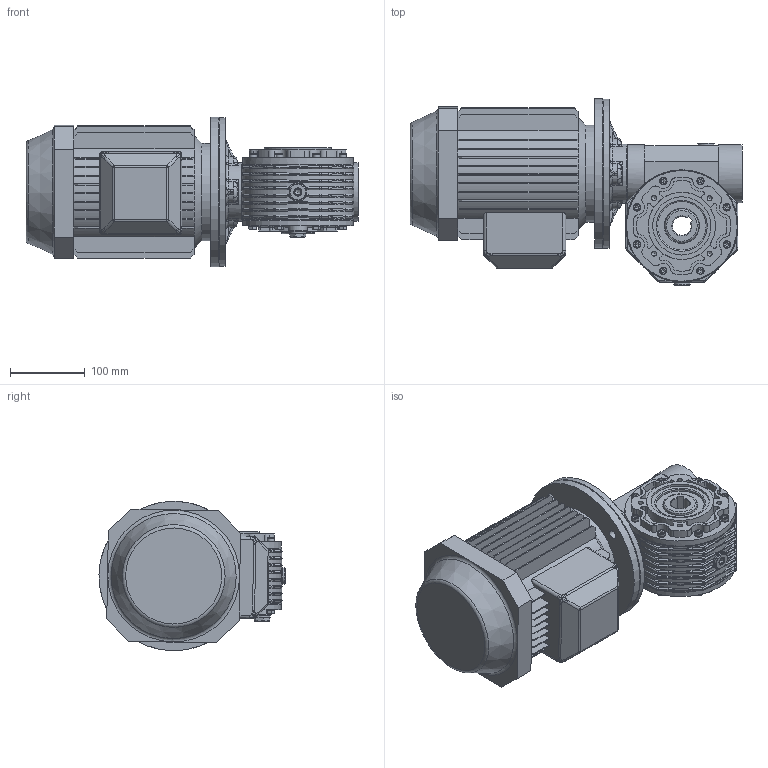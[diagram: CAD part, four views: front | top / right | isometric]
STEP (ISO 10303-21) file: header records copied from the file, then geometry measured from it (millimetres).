
FILE_DESCRIPTION((''),'2;1');
FILE_NAME('Y:\Archivi Inventor\Prog_01\GRAND_30\Figurini\MRV30 sito\90L\MRV30_FP1_90L_B5.stp','2013-02-06T11:03:16',('tech3'),(''),'Autodesk Inventor 2013','Autodesk Inventor 2013','');
FILE_SCHEMA(('AUTOMOTIVE_DESIGN { 1 0 10303 214 1 1 1 1 }'));
Length unit declared in the file: millimetre
Products named in the file (18): MRV30_90s_90L; MRV30; 0103001-A2 fig; 0103008.A1 fig F=25; PARAOLIO 45x65x10; RCA_52x7; Guarnizione 3_8 GAS; Tappo 3_8 GAS_esagn_incsst; 0103029; DIN EN 24017 M6 x 20; 0103028; 0103002-A0 fig; DIN EN ISO 4762 M6 x 16; 0103004.A2 fig; Tappo3_8 GAS; UNI 5931 M 8 x  25; 0103006; motori B5 90L
Assembly tree (39 placements, depth 3):
  MRV30_90s_90L
    MRV30
      0103001-A2 fig
      0103008.A1 fig F=25
      PARAOLIO 45x65x10  x2
      RCA_52x7
      Guarnizione 3_8 GAS  x3
      Tappo 3_8 GAS_esagn_incsst  x2
      0103029  x2
      DIN EN 24017 M6 x 20  x8
      0103028
      0103002-A0 fig
      DIN EN ISO 4762 M6 x 16  x8
      0103004.A2 fig
      Tappo3_8 GAS
      UNI 5931 M 8 x  25  x4
    0103006
    motori B5 90L
Bounding box: 444.4 x 249.05 x 199.97 mm (x, y, z)
Volume: 7684232.3 mm3; surface area: 883072.8 mm2
Topology: 38 solids, 41 shells, 2085 faces, 5087 edges, 3066 vertices
Faces by surface type: plane 875, cylinder 716, torus 185, bspline 166, cone 119, sphere 24
Full cylindrical faces by diameter (mm): 2 x2, 4.917 x16, 6 x16, 6.5 x32, 6.647 x8, 8 x6, 8.5 x8, 8.88 x8, 9.5 x8, 10 x8, 11 x8, 12 x4, 13 x4, 13.046 x1, 14.95 x3, 16.3 x3, 16.5 x2, 22 x6, 24 x1, 25 x1, 43 x1, 45 x6, 45.76 x1, 50.881 x2, 52 x6, 55 x1, 60.5 x2, 65 x4, 77 x1, 78 x2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
Entity records: 60946 total; most frequent: CARTESIAN_POINT 20031, DIRECTION 8584, ORIENTED_EDGE 8060, EDGE_CURVE 4030, AXIS2_PLACEMENT_3D 3374, VERTEX_POINT 2579, EDGE_LOOP 2118, VECTOR 1836
